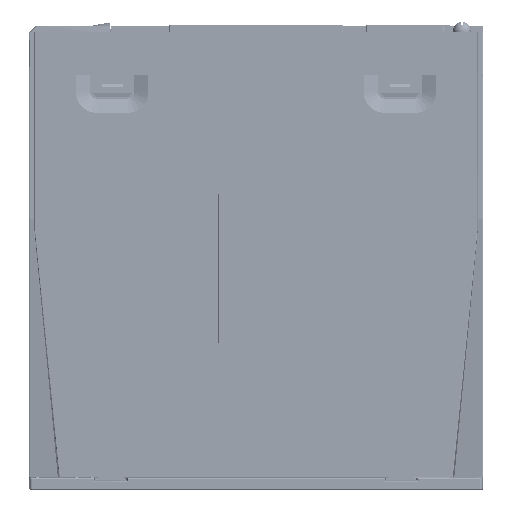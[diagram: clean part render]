
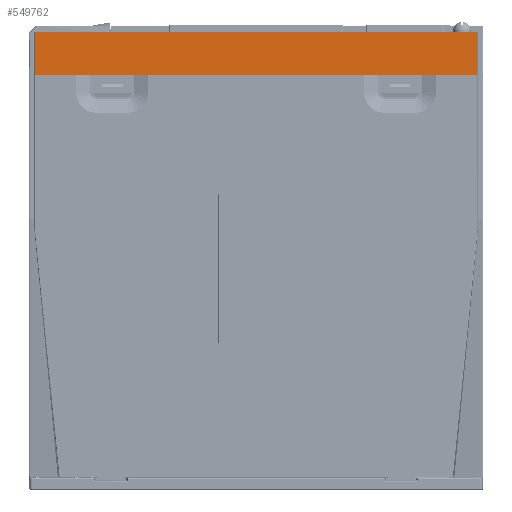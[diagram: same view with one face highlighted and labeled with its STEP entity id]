
A CAD part, left-side view. The second image highlights one B-rep face of the part: STEP entity #549762.
In plain terms, the highlighted planar face has unit normal (1, 0, 0).
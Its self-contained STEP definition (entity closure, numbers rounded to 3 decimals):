
#538119=DIRECTION('',(0.,1.,0.));
#538120=VECTOR('',#538119,170.462);
#538121=CARTESIAN_POINT('',(-40.,2.268,160.15));
#538122=LINE('',#538121,#538120);
#539955=CARTESIAN_POINT('',(-40.,172.731,176.5));
#539957=DIRECTION('',(0.,-1.,0.));
#539958=VECTOR('',#539957,170.463);
#539959=CARTESIAN_POINT('',(-40.,172.731,176.5));
#539960=LINE('',#539959,#539958);
#540117=DIRECTION('',(0.,0.,-1.));
#540118=VECTOR('',#540117,16.35);
#540119=CARTESIAN_POINT('',(-40.,2.268,176.5));
#540120=LINE('',#540119,#540118);
#540129=DIRECTION('',(0.,0.,1.));
#540130=VECTOR('',#540129,16.35);
#540131=CARTESIAN_POINT('',(-40.,172.73,160.15));
#540132=LINE('',#540131,#540130);
#545044=CARTESIAN_POINT('',(-40.,2.268,160.15));
#545045=VERTEX_POINT('',#545044);
#545046=CARTESIAN_POINT('',(-40.,172.73,160.15));
#545047=VERTEX_POINT('',#545046);
#545959=VERTEX_POINT('',#539955);
#545960=CARTESIAN_POINT('',(-40.,2.268,176.5));
#545961=VERTEX_POINT('',#545960);
#549750=CARTESIAN_POINT('',(-40.,87.5,168.325));
#549751=DIRECTION('',(1.,0.,0.));
#549752=DIRECTION('',(0.,1.,0.));
#549753=AXIS2_PLACEMENT_3D('',#549750,#549751,#549752);
#549754=PLANE('',#549753);
#549755=ORIENTED_EDGE('',*,*,#549419,.F.);
#549757=ORIENTED_EDGE('',*,*,#549756,.F.);
#549758=ORIENTED_EDGE('',*,*,#547067,.F.);
#549759=ORIENTED_EDGE('',*,*,#549743,.F.);
#549760=EDGE_LOOP('',(#549755,#549757,#549758,#549759));
#549761=FACE_OUTER_BOUND('',#549760,.F.);
#549762=ADVANCED_FACE('',(#549761),#549754,.T.);
#547067=EDGE_CURVE('',#545045,#545047,#538122,.T.);
#549419=EDGE_CURVE('',#545959,#545961,#539960,.T.);
#549743=EDGE_CURVE('',#545961,#545045,#540120,.T.);
#549756=EDGE_CURVE('',#545047,#545959,#540132,.T.);
